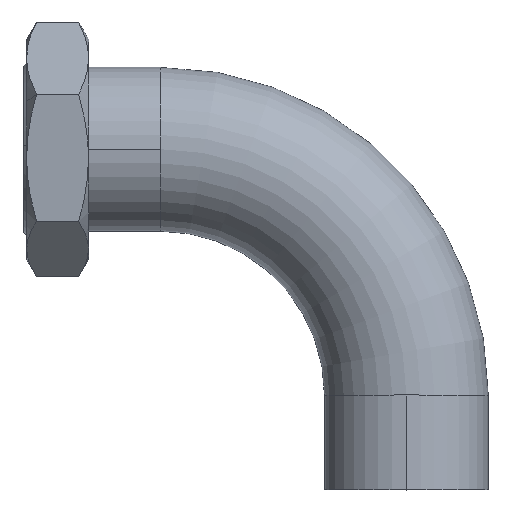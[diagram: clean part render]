
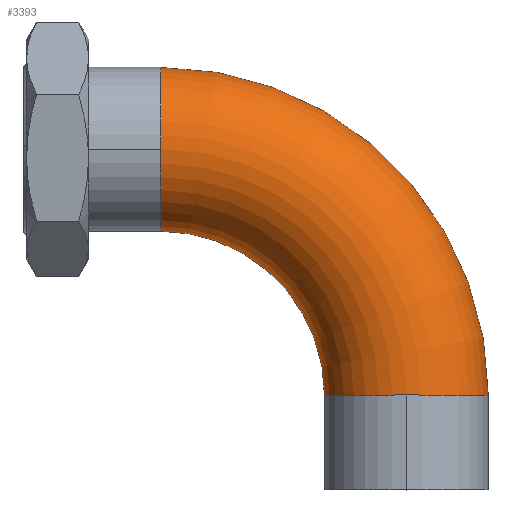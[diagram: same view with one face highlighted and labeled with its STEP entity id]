
A CAD part, top view. The second image highlights one B-rep face of the part: STEP entity #3393.
In plain terms, the highlighted toroidal (fillet/blend) face has major radius 152.4 mm and minor radius 50.8 mm.
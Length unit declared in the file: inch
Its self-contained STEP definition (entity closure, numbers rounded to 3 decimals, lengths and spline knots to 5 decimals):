
#37 = TOROIDAL_SURFACE ( 'NONE', #3268, 6., 2. ) ;
#99 = EDGE_CURVE ( 'NONE', #1092, #1805, #134, .T. ) ;
#134 = CIRCLE ( 'NONE', #4116, 2. ) ;
#142 = DIRECTION ( 'NONE',  ( 0., 0., 1. ) ) ;
#208 = EDGE_CURVE ( 'NONE', #2046, #1101, #993, .T. ) ;
#379 = AXIS2_PLACEMENT_3D ( 'NONE', #1900, #4073, #1563 ) ;
#395 = VERTEX_POINT ( 'NONE', #4031 ) ;
#443 = DIRECTION ( 'NONE',  ( 0., 0., 1. ) ) ;
#532 = ORIENTED_EDGE ( 'NONE', *, *, #2203, .T. ) ;
#687 = AXIS2_PLACEMENT_3D ( 'NONE', #2124, #3900, #2853 ) ;
#789 = DIRECTION ( 'NONE',  ( -1., 0., 0. ) ) ;
#918 = AXIS2_PLACEMENT_3D ( 'NONE', #2304, #3335, #443 ) ;
#993 = CIRCLE ( 'NONE', #918, 2. ) ;
#996 = AXIS2_PLACEMENT_3D ( 'NONE', #1134, #2574, #3995 ) ;
#1016 = AXIS2_PLACEMENT_3D ( 'NONE', #2064, #4552, #3167 ) ;
#1092 = VERTEX_POINT ( 'NONE', #3572 ) ;
#1101 = VERTEX_POINT ( 'NONE', #3944 ) ;
#1134 = CARTESIAN_POINT ( 'NONE',  ( -6., 2.312, 0. ) ) ;
#1515 = CARTESIAN_POINT ( 'NONE',  ( -6., 8.312, 0. ) ) ;
#1563 = DIRECTION ( 'NONE',  ( 0., 0., 1. ) ) ;
#1588 = CIRCLE ( 'NONE', #687, 8. ) ;
#1715 = ORIENTED_EDGE ( 'NONE', *, *, #208, .T. ) ;
#1763 = EDGE_CURVE ( 'NONE', #3893, #1092, #1773, .T. ) ;
#1773 = CIRCLE ( 'NONE', #1016, 2. ) ;
#1805 = VERTEX_POINT ( 'NONE', #4152 ) ;
#1900 = CARTESIAN_POINT ( 'NONE',  ( 0., 2.312, 0. ) ) ;
#2046 = VERTEX_POINT ( 'NONE', #2843 ) ;
#2064 = CARTESIAN_POINT ( 'NONE',  ( -6., 8.312, 0. ) ) ;
#2122 = ORIENTED_EDGE ( 'NONE', *, *, #2692, .F. ) ;
#2124 = CARTESIAN_POINT ( 'NONE',  ( -6., 2.312, 0. ) ) ;
#2203 = EDGE_CURVE ( 'NONE', #1101, #395, #2340, .T. ) ;
#2233 = DIRECTION ( 'NONE',  ( 0., 0., 1. ) ) ;
#2304 = CARTESIAN_POINT ( 'NONE',  ( 0., 2.312, 0. ) ) ;
#2340 = CIRCLE ( 'NONE', #379, 2. ) ;
#2574 = DIRECTION ( 'NONE',  ( 0., 0., 1. ) ) ;
#2640 = CARTESIAN_POINT ( 'NONE',  ( -6., 2.312, 0. ) ) ;
#2692 = EDGE_CURVE ( 'NONE', #2046, #3893, #4298, .T. ) ;
#2843 = CARTESIAN_POINT ( 'NONE',  ( -2., 2.312, 0. ) ) ;
#2853 = DIRECTION ( 'NONE',  ( 1., 0., 0. ) ) ;
#3062 = FACE_OUTER_BOUND ( 'NONE', #3074, .T. ) ;
#3074 = EDGE_LOOP ( 'NONE', ( #532, #3898, #4117, #3545, #2122, #1715 ) ) ;
#3167 = DIRECTION ( 'NONE',  ( 0., 0., 1. ) ) ;
#3268 = AXIS2_PLACEMENT_3D ( 'NONE', #2640, #142, #3777 ) ;
#3335 = DIRECTION ( 'NONE',  ( 0., 1., 0. ) ) ;
#3393 = ADVANCED_FACE ( 'NONE', ( #3062 ), #37, .T. ) ;
#3545 = ORIENTED_EDGE ( 'NONE', *, *, #1763, .F. ) ;
#3572 = CARTESIAN_POINT ( 'NONE',  ( -6., 8.312, 2. ) ) ;
#3777 = DIRECTION ( 'NONE',  ( 1., 0., 0. ) ) ;
#3893 = VERTEX_POINT ( 'NONE', #4260 ) ;
#3898 = ORIENTED_EDGE ( 'NONE', *, *, #4634, .T. ) ;
#3900 = DIRECTION ( 'NONE',  ( 0., 0., 1. ) ) ;
#3944 = CARTESIAN_POINT ( 'NONE',  ( 0., 2.312, 2. ) ) ;
#3995 = DIRECTION ( 'NONE',  ( 1., 0., 0. ) ) ;
#4031 = CARTESIAN_POINT ( 'NONE',  ( 2., 2.312, 0. ) ) ;
#4073 = DIRECTION ( 'NONE',  ( 0., 1., 0. ) ) ;
#4116 = AXIS2_PLACEMENT_3D ( 'NONE', #1515, #789, #2233 ) ;
#4117 = ORIENTED_EDGE ( 'NONE', *, *, #99, .F. ) ;
#4152 = CARTESIAN_POINT ( 'NONE',  ( -6., 10.312, 0. ) ) ;
#4260 = CARTESIAN_POINT ( 'NONE',  ( -6., 6.312, 0. ) ) ;
#4298 = CIRCLE ( 'NONE', #996, 4. ) ;
#4552 = DIRECTION ( 'NONE',  ( -1., 0., 0. ) ) ;
#4634 = EDGE_CURVE ( 'NONE', #395, #1805, #1588, .T. ) ;
